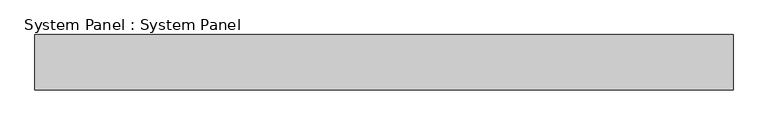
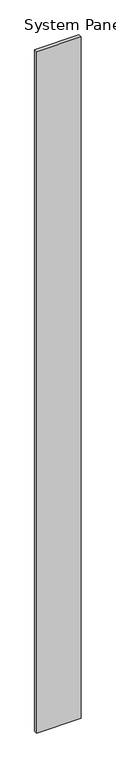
"""IFC4 building model written with IfcOpenShell, lengths in millimetres: plate geometry, System Panel : System Panel."""

from ifc_helpers import new_model, si_unit, origin, origin_with_axes, place, context, project, spatial, polyline, outline, extrude, source, transform, mapped, element, save


def system_panel_system_panel_2d25a60f(model_context):
    return source(origin(), model_context, "Body", "SweptSolid", [
        extrude(outline(polyline([(641.35, -50.8), (-641.35, -50.8), (-641.35, 50.8), (641.35, 50.8), (641.35, -50.8)])), origin_with_axes(), (0.0, 0.0, 1.0), 20878.8),
    ])


if __name__ == "__main__":
    model = new_model("IFC4")
    model_context = context("Model", 3, world=origin())
    ifc_project = project(units=[si_unit("LENGTHUNIT", "METRE", prefix="MILLI")], contexts=[model_context])
    site = spatial("IfcSite", under=ifc_project)
    building = spatial("IfcBuilding", under=site)
    placement = place(None, origin())
    system_panel_system_panel_shape = system_panel_system_panel_2d25a60f(model_context)
    element("IfcPlate", 1, ObjectType="System Panel : System Panel", at=placement, inside=building, context=model_context, shape_type="MappedRepresentation", body=[
        mapped(system_panel_system_panel_shape, transform((0.0, 0.0, 0.0), x_axis=(1.0, 0.0, 0.0), y_axis=(0.0, 1.0, 0.0), z_axis=(0.0, 0.0, 1.0))),
    ])
    save(model, "model.ifc")
